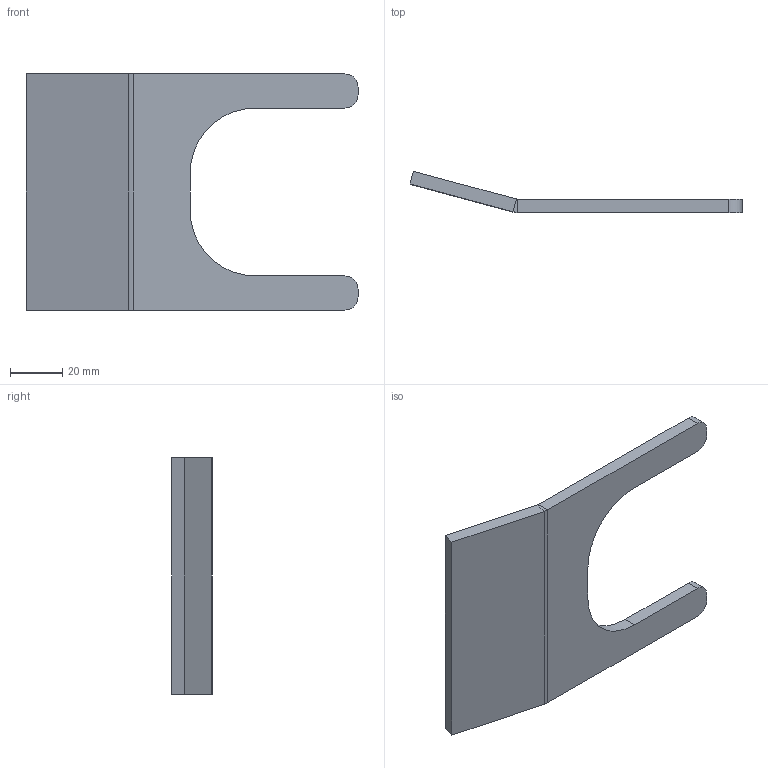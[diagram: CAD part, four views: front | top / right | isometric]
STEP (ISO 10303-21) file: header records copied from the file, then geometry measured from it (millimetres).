
FILE_DESCRIPTION (( 'STEP AP203' ), '1' );
FILE_NAME ('4148_STAFFA_GRANDE_SPESSORE_5.STEP', '2019-02-20T18:43:59', ( '' ), ( '' ), 'SwSTEP 2.0', 'SolidWorks 2019', '' );
FILE_SCHEMA (( 'CONFIG_CONTROL_DESIGN' ));
Length unit declared in the file: millimetre
Products named in the file (1): 4148_STAFFA_GRANDE_SPESSORE_5
Bounding box: 126.51 x 15.56 x 90 mm (x, y, z)
Volume: 38021.8 mm3; surface area: 17871.1 mm2
Topology: 1 solids, 1 shells, 24 faces, 58 edges, 36 vertices
Faces by surface type: plane 16, cylinder 8
Entity records: 771 total; most frequent: DIRECTION 124, CARTESIAN_POINT 119, ORIENTED_EDGE 116, EDGE_CURVE 58, LINE 42, VECTOR 42, AXIS2_PLACEMENT_3D 41, VERTEX_POINT 36
